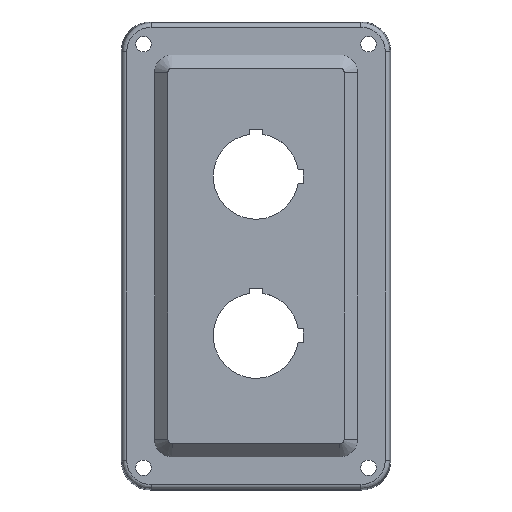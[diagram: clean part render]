
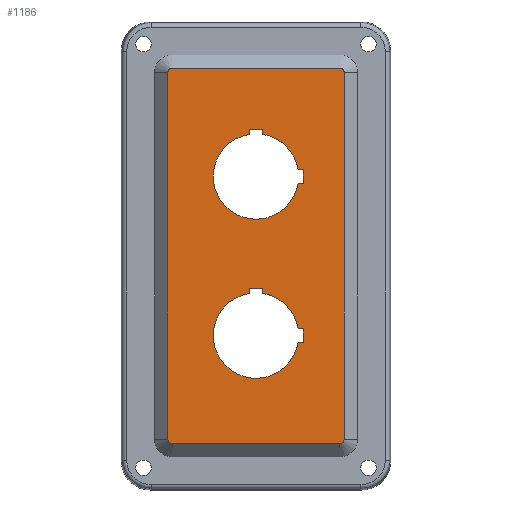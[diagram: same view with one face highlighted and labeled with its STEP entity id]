
A CAD part, top view. The second image highlights one B-rep face of the part: STEP entity #1186.
In plain terms, the highlighted planar face has unit normal (0, 0, 1).
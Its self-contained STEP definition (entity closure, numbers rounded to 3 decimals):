
#30=FACE_BOUND('',#242,.T.);
#31=FACE_BOUND('',#243,.T.);
#54=CIRCLE('',#1257,15.35);
#55=CIRCLE('',#1262,15.35);
#56=CIRCLE('',#1268,15.35);
#57=CIRCLE('',#1273,15.35);
#62=CIRCLE('',#1285,1.587);
#64=CIRCLE('',#1289,1.587);
#66=CIRCLE('',#1293,1.587);
#68=CIRCLE('',#1297,1.587);
#112=PLANE('',#1299);
#165=FACE_OUTER_BOUND('',#241,.T.);
#241=EDGE_LOOP('',(#996,#997,#998,#999,#1000,#1001,#1002,#1003));
#242=EDGE_LOOP('',(#1004,#1005,#1006,#1007,#1008,#1009,#1010,#1011));
#243=EDGE_LOOP('',(#1012,#1013,#1014,#1015,#1016,#1017,#1018,#1019));
#313=LINE('',#1829,#421);
#317=LINE('',#1838,#425);
#319=LINE('',#1842,#427);
#321=LINE('',#1847,#429);
#325=LINE('',#1856,#433);
#327=LINE('',#1860,#435);
#328=LINE('',#1863,#436);
#330=LINE('',#1867,#438);
#333=LINE('',#1874,#441);
#334=LINE('',#1877,#442);
#336=LINE('',#1881,#444);
#339=LINE('',#1888,#447);
#341=LINE('',#1906,#449);
#346=LINE('',#1920,#454);
#350=LINE('',#1932,#458);
#354=LINE('',#1944,#462);
#421=VECTOR('',#1467,10.);
#425=VECTOR('',#1477,10.);
#427=VECTOR('',#1481,10.);
#429=VECTOR('',#1485,10.);
#433=VECTOR('',#1495,10.);
#435=VECTOR('',#1499,10.);
#436=VECTOR('',#1502,10.);
#438=VECTOR('',#1506,10.);
#441=VECTOR('',#1515,10.);
#442=VECTOR('',#1518,10.);
#444=VECTOR('',#1522,10.);
#447=VECTOR('',#1531,10.);
#449=VECTOR('',#1551,10.);
#454=VECTOR('',#1564,10.);
#458=VECTOR('',#1576,10.);
#462=VECTOR('',#1588,10.);
#556=VERTEX_POINT('',#1826);
#557=VERTEX_POINT('',#1828);
#558=VERTEX_POINT('',#1832);
#559=VERTEX_POINT('',#1836);
#560=VERTEX_POINT('',#1840);
#561=VERTEX_POINT('',#1844);
#562=VERTEX_POINT('',#1846);
#563=VERTEX_POINT('',#1850);
#564=VERTEX_POINT('',#1854);
#565=VERTEX_POINT('',#1858);
#566=VERTEX_POINT('',#1862);
#567=VERTEX_POINT('',#1866);
#568=VERTEX_POINT('',#1870);
#569=VERTEX_POINT('',#1876);
#570=VERTEX_POINT('',#1880);
#571=VERTEX_POINT('',#1884);
#577=VERTEX_POINT('',#1903);
#578=VERTEX_POINT('',#1905);
#581=VERTEX_POINT('',#1912);
#583=VERTEX_POINT('',#1918);
#585=VERTEX_POINT('',#1924);
#587=VERTEX_POINT('',#1930);
#589=VERTEX_POINT('',#1936);
#591=VERTEX_POINT('',#1942);
#685=EDGE_CURVE('',#557,#556,#313,.T.);
#688=EDGE_CURVE('',#556,#558,#54,.T.);
#690=EDGE_CURVE('',#558,#559,#317,.T.);
#692=EDGE_CURVE('',#559,#560,#319,.T.);
#694=EDGE_CURVE('',#562,#561,#321,.T.);
#697=EDGE_CURVE('',#561,#563,#55,.T.);
#699=EDGE_CURVE('',#563,#564,#325,.T.);
#701=EDGE_CURVE('',#564,#565,#327,.T.);
#702=EDGE_CURVE('',#566,#557,#328,.T.);
#704=EDGE_CURVE('',#567,#566,#330,.T.);
#706=EDGE_CURVE('',#568,#567,#56,.T.);
#708=EDGE_CURVE('',#560,#568,#333,.T.);
#709=EDGE_CURVE('',#569,#562,#334,.T.);
#711=EDGE_CURVE('',#570,#569,#336,.T.);
#713=EDGE_CURVE('',#571,#570,#57,.T.);
#715=EDGE_CURVE('',#565,#571,#339,.T.);
#721=EDGE_CURVE('',#577,#578,#341,.T.);
#725=EDGE_CURVE('',#581,#577,#62,.T.);
#728=EDGE_CURVE('',#583,#581,#346,.T.);
#731=EDGE_CURVE('',#585,#583,#64,.T.);
#734=EDGE_CURVE('',#587,#585,#350,.T.);
#737=EDGE_CURVE('',#589,#587,#66,.T.);
#740=EDGE_CURVE('',#591,#589,#354,.T.);
#742=EDGE_CURVE('',#578,#591,#68,.T.);
#996=ORIENTED_EDGE('',*,*,#721,.F.);
#997=ORIENTED_EDGE('',*,*,#725,.F.);
#998=ORIENTED_EDGE('',*,*,#728,.F.);
#999=ORIENTED_EDGE('',*,*,#731,.F.);
#1000=ORIENTED_EDGE('',*,*,#734,.F.);
#1001=ORIENTED_EDGE('',*,*,#737,.F.);
#1002=ORIENTED_EDGE('',*,*,#740,.F.);
#1003=ORIENTED_EDGE('',*,*,#742,.F.);
#1004=ORIENTED_EDGE('',*,*,#690,.T.);
#1005=ORIENTED_EDGE('',*,*,#692,.T.);
#1006=ORIENTED_EDGE('',*,*,#708,.T.);
#1007=ORIENTED_EDGE('',*,*,#706,.T.);
#1008=ORIENTED_EDGE('',*,*,#704,.T.);
#1009=ORIENTED_EDGE('',*,*,#702,.T.);
#1010=ORIENTED_EDGE('',*,*,#685,.T.);
#1011=ORIENTED_EDGE('',*,*,#688,.T.);
#1012=ORIENTED_EDGE('',*,*,#711,.T.);
#1013=ORIENTED_EDGE('',*,*,#709,.T.);
#1014=ORIENTED_EDGE('',*,*,#694,.T.);
#1015=ORIENTED_EDGE('',*,*,#697,.T.);
#1016=ORIENTED_EDGE('',*,*,#699,.T.);
#1017=ORIENTED_EDGE('',*,*,#701,.T.);
#1018=ORIENTED_EDGE('',*,*,#715,.T.);
#1019=ORIENTED_EDGE('',*,*,#713,.T.);
#1186=ADVANCED_FACE('',(#165,#30,#31),#112,.T.);
#1257=AXIS2_PLACEMENT_3D('',#1834,#1472,#1473);
#1262=AXIS2_PLACEMENT_3D('',#1852,#1490,#1491);
#1268=AXIS2_PLACEMENT_3D('',#1871,#1510,#1511);
#1273=AXIS2_PLACEMENT_3D('',#1885,#1526,#1527);
#1285=AXIS2_PLACEMENT_3D('',#1914,#1557,#1558);
#1289=AXIS2_PLACEMENT_3D('',#1926,#1569,#1570);
#1293=AXIS2_PLACEMENT_3D('',#1938,#1581,#1582);
#1297=AXIS2_PLACEMENT_3D('',#1947,#1592,#1593);
#1299=AXIS2_PLACEMENT_3D('',#1949,#1596,#1597);
#1467=DIRECTION('',(0.,-1.,0.));
#1472=DIRECTION('center_axis',(0.,0.,-1.));
#1473=DIRECTION('ref_axis',(0.988,0.156,0.));
#1477=DIRECTION('',(1.,0.,0.));
#1481=DIRECTION('',(0.,-1.,0.));
#1485=DIRECTION('',(0.,-1.,0.));
#1490=DIRECTION('center_axis',(0.,0.,-1.));
#1491=DIRECTION('ref_axis',(0.988,0.156,0.));
#1495=DIRECTION('',(1.,0.,0.));
#1499=DIRECTION('',(0.,-1.,0.));
#1502=DIRECTION('',(1.,0.,0.));
#1506=DIRECTION('',(0.,1.,0.));
#1510=DIRECTION('center_axis',(0.,0.,-1.));
#1511=DIRECTION('ref_axis',(-0.156,0.988,0.));
#1515=DIRECTION('',(-1.,0.,0.));
#1518=DIRECTION('',(1.,0.,0.));
#1522=DIRECTION('',(0.,1.,0.));
#1526=DIRECTION('center_axis',(0.,0.,-1.));
#1527=DIRECTION('ref_axis',(-0.156,0.988,0.));
#1531=DIRECTION('',(-1.,0.,0.));
#1551=DIRECTION('',(-1.,0.,0.));
#1557=DIRECTION('center_axis',(0.,0.,-1.));
#1558=DIRECTION('ref_axis',(0.,-1.,0.));
#1564=DIRECTION('',(0.,-1.,0.));
#1569=DIRECTION('center_axis',(0.,0.,-1.));
#1570=DIRECTION('ref_axis',(1.,0.,0.));
#1576=DIRECTION('',(1.,0.,0.));
#1581=DIRECTION('center_axis',(0.,0.,-1.));
#1582=DIRECTION('ref_axis',(0.,1.,0.));
#1588=DIRECTION('',(0.,1.,0.));
#1592=DIRECTION('center_axis',(0.,0.,-1.));
#1593=DIRECTION('ref_axis',(-1.,0.,0.));
#1596=DIRECTION('center_axis',(0.,0.,1.));
#1597=DIRECTION('ref_axis',(1.,0.,0.));
#1826=CARTESIAN_POINT('',(2.4,-13.489,15.863));
#1828=CARTESIAN_POINT('',(2.4,-11.65,15.863));
#1829=CARTESIAN_POINT('',(2.4,11.8,15.863));
#1832=CARTESIAN_POINT('',(15.161,-26.25,15.863));
#1834=CARTESIAN_POINT('Origin',(0.,-28.65,15.863));
#1836=CARTESIAN_POINT('',(17.,-26.25,15.863));
#1838=CARTESIAN_POINT('',(16.488,-26.25,15.863));
#1840=CARTESIAN_POINT('',(17.,-31.05,15.863));
#1842=CARTESIAN_POINT('',(17.,4.5,15.863));
#1844=CARTESIAN_POINT('',(2.4,43.711,15.863));
#1846=CARTESIAN_POINT('',(2.4,45.55,15.863));
#1847=CARTESIAN_POINT('',(2.4,40.4,15.863));
#1850=CARTESIAN_POINT('',(15.161,30.95,15.863));
#1852=CARTESIAN_POINT('Origin',(0.,28.55,15.863));
#1854=CARTESIAN_POINT('',(17.,30.95,15.863));
#1856=CARTESIAN_POINT('',(16.488,30.95,15.863));
#1858=CARTESIAN_POINT('',(17.,26.15,15.863));
#1860=CARTESIAN_POINT('',(17.,33.1,15.863));
#1862=CARTESIAN_POINT('',(-2.4,-11.65,15.863));
#1863=CARTESIAN_POINT('',(7.707,-11.65,15.863));
#1866=CARTESIAN_POINT('',(-2.4,-13.489,15.863));
#1867=CARTESIAN_POINT('',(-2.4,10.881,15.863));
#1870=CARTESIAN_POINT('',(15.161,-31.05,15.863));
#1871=CARTESIAN_POINT('Origin',(0.,-28.65,15.863));
#1874=CARTESIAN_POINT('',(17.407,-31.05,15.863));
#1876=CARTESIAN_POINT('',(-2.4,45.55,15.863));
#1877=CARTESIAN_POINT('',(7.707,45.55,15.863));
#1880=CARTESIAN_POINT('',(-2.4,43.711,15.863));
#1881=CARTESIAN_POINT('',(-2.4,39.481,15.863));
#1884=CARTESIAN_POINT('',(15.161,26.15,15.863));
#1885=CARTESIAN_POINT('Origin',(0.,28.55,15.863));
#1888=CARTESIAN_POINT('',(17.407,26.15,15.863));
#1903=CARTESIAN_POINT('',(30.15,-67.487,15.863));
#1905=CARTESIAN_POINT('',(-30.15,-67.487,15.863));
#1906=CARTESIAN_POINT('',(-6.168,-67.487,15.863));
#1912=CARTESIAN_POINT('',(31.737,-65.9,15.863));
#1914=CARTESIAN_POINT('Origin',(30.15,-65.9,15.863));
#1918=CARTESIAN_POINT('',(31.737,65.9,15.863));
#1920=CARTESIAN_POINT('',(31.737,17.625,15.863));
#1924=CARTESIAN_POINT('',(30.15,67.487,15.863));
#1926=CARTESIAN_POINT('Origin',(30.15,65.9,15.863));
#1930=CARTESIAN_POINT('',(-30.15,67.487,15.863));
#1932=CARTESIAN_POINT('',(23.982,67.487,15.863));
#1936=CARTESIAN_POINT('',(-31.737,65.9,15.863));
#1938=CARTESIAN_POINT('Origin',(-30.15,65.9,15.863));
#1942=CARTESIAN_POINT('',(-31.737,-65.9,15.863));
#1944=CARTESIAN_POINT('',(-31.737,50.575,15.863));
#1947=CARTESIAN_POINT('Origin',(-30.15,-65.9,15.863));
#1949=CARTESIAN_POINT('Origin',(17.815,35.25,15.863));
